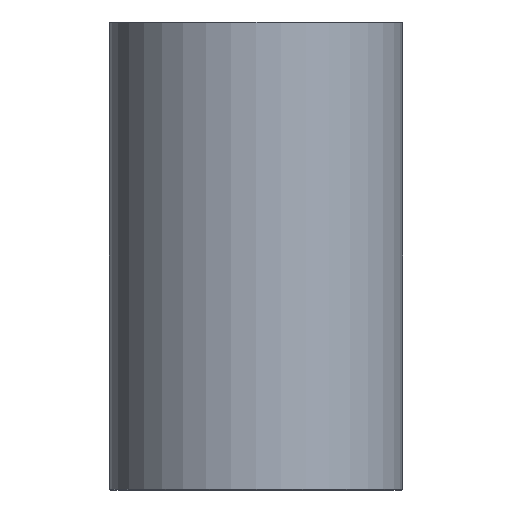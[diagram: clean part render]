
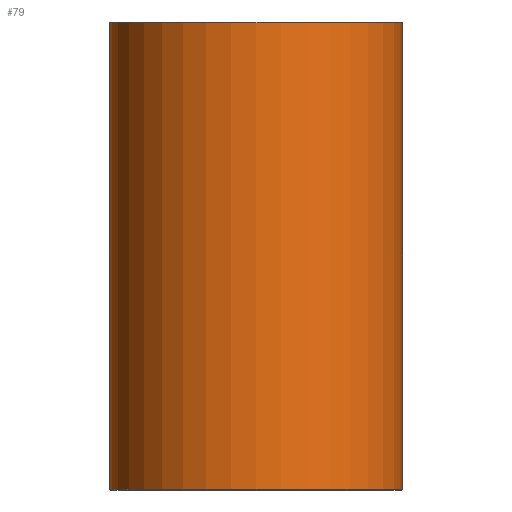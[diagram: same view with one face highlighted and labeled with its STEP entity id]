
A CAD part, front view. The second image highlights one B-rep face of the part: STEP entity #79.
In plain terms, the highlighted cylindrical face has radius 36 mm (diameter 72 mm), a full revolution.
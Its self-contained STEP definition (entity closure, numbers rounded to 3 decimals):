
#79=ADVANCED_FACE('',(#96,#97),#98,.T.);
#96=FACE_OUTER_BOUND('',#120,.T.);
#97=FACE_OUTER_BOUND('',#121,.T.);
#98=CYLINDRICAL_SURFACE('',#122,36.);
#120=EDGE_LOOP('',(#152));
#121=EDGE_LOOP('',(#153));
#122=AXIS2_PLACEMENT_3D('',#154,#155,#156);
#152=ORIENTED_EDGE('',*,*,#178,.T.);
#153=ORIENTED_EDGE('',*,*,#177,.T.);
#154=CARTESIAN_POINT('',(0.0,0.0,115.0));
#155=DIRECTION('',(0.0,0.0,-1.0));
#156=DIRECTION('',(-1.0,0.0,0.0));
#177=EDGE_CURVE('',#190,#190,#191,.T.);
#178=EDGE_CURVE('',#192,#192,#193,.F.);
#190=VERTEX_POINT('',#206);
#191=CIRCLE('',#207,36.);
#192=VERTEX_POINT('',#208);
#193=CIRCLE('',#209,36.);
#206=CARTESIAN_POINT('',(36.,0.0,0.2));
#207=AXIS2_PLACEMENT_3D('',#227,#228,#229);
#208=CARTESIAN_POINT('',(36.,0.,114.8));
#209=AXIS2_PLACEMENT_3D('',#230,#231,#232);
#227=CARTESIAN_POINT('',(0.0,0.0,0.2));
#228=DIRECTION('',(0.0,0.0,1.0));
#229=DIRECTION('',(1.0,0.0,0.0));
#230=CARTESIAN_POINT('',(0.0,0.0,114.8));
#231=DIRECTION('',(0.0,0.0,1.0));
#232=DIRECTION('',(1.0,0.0,0.0));
